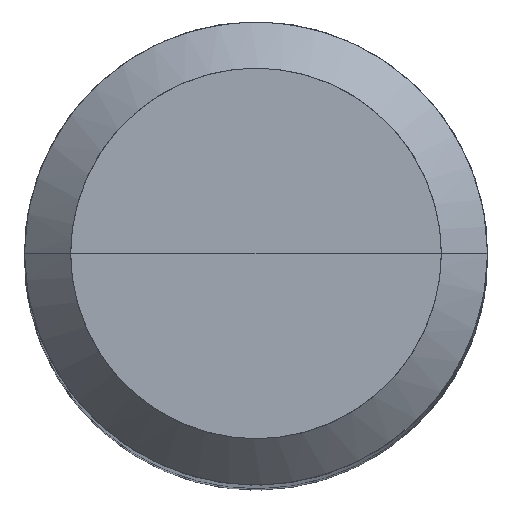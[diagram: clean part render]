
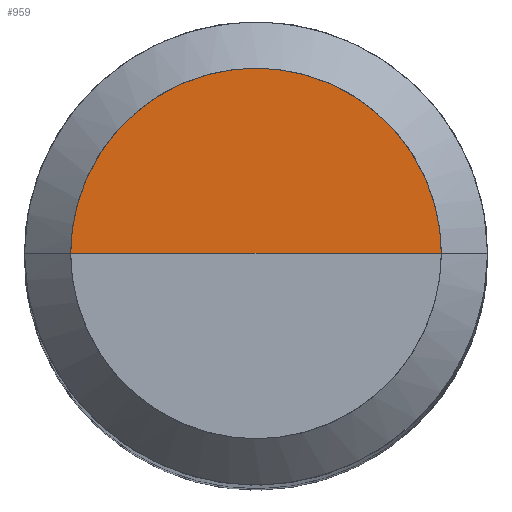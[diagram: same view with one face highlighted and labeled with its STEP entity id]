
A CAD part, top view. The second image highlights one B-rep face of the part: STEP entity #959.
In plain terms, the highlighted free-form (B-spline) face has degree [1, 2] with [2, 5] control points.
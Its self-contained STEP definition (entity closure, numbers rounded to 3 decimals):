
#723=CARTESIAN_POINT('',(4.8,0.0,49.0));
#724=CARTESIAN_POINT('',(4.8,4.8,49.0));
#725=CARTESIAN_POINT('',(0.0,4.8,49.0));
#726=CARTESIAN_POINT('',(-4.8,4.8,49.0));
#727=CARTESIAN_POINT('',(-4.8,0.0,49.0));
#728=CARTESIAN_POINT('',(0.0,0.0,49.0));
#944=(
BOUNDED_SURFACE()
B_SPLINE_SURFACE(1,2,(
(#723,#724,#725,#726,#727),
(#728,#728,#728,#728,#728)
), .UNSPECIFIED.,.F.,.F.,.F.)
B_SPLINE_SURFACE_WITH_KNOTS((2,2),(3,2,3),(
0.0,1.0),(
0.0,0.5,1.0), .UNSPECIFIED.)
GEOMETRIC_REPRESENTATION_ITEM()
RATIONAL_B_SPLINE_SURFACE(((1.0,0.707,1.0,0.707,1.0),
(1.0,0.707,1.0,0.707,1.0)
))
REPRESENTATION_ITEM('')
SURFACE()
);
#945=(
BOUNDED_CURVE()
B_SPLINE_CURVE(2,(#727,#726,#725,#724,#723),.UNSPECIFIED.,.F.,.F.)
B_SPLINE_CURVE_WITH_KNOTS((3,2,3),
(0.0,0.5,1.0),.UNSPECIFIED.)
CURVE()
GEOMETRIC_REPRESENTATION_ITEM()
RATIONAL_B_SPLINE_CURVE((1.0,0.707,1.0,0.707,1.0))
REPRESENTATION_ITEM('')
);
#946=(
BOUNDED_CURVE()
B_SPLINE_CURVE(1,(#723,#728),.UNSPECIFIED.,.F.,.F.)
B_SPLINE_CURVE_WITH_KNOTS((2,2),
(0.0,1.0),.UNSPECIFIED.)
CURVE()
GEOMETRIC_REPRESENTATION_ITEM()
RATIONAL_B_SPLINE_CURVE((1.0,1.0))
REPRESENTATION_ITEM('')
);
#947=(
BOUNDED_CURVE()
B_SPLINE_CURVE(1,(#728,#727),.UNSPECIFIED.,.F.,.F.)
B_SPLINE_CURVE_WITH_KNOTS((2,2),
(0.0,1.0),.UNSPECIFIED.)
CURVE()
GEOMETRIC_REPRESENTATION_ITEM()
RATIONAL_B_SPLINE_CURVE((1.0,1.0))
REPRESENTATION_ITEM('')
);
#948=VERTEX_POINT('',#723);
#949=VERTEX_POINT('',#727);
#950=VERTEX_POINT('',#728);
#951=EDGE_CURVE('',#949,#948,#945,.T.);
#952=EDGE_CURVE('',#948,#950,#946,.T.);
#953=EDGE_CURVE('',#950,#949,#947,.T.);
#954=ORIENTED_EDGE('',*,*,#951,.T.);
#955=ORIENTED_EDGE('',*,*,#952,.T.);
#956=ORIENTED_EDGE('',*,*,#953,.T.);
#957=EDGE_LOOP('',(#954,#955,#956));
#958=FACE_OUTER_BOUND('',#957,.T.);
#959=ADVANCED_FACE('',(#958),#944,.T.);
